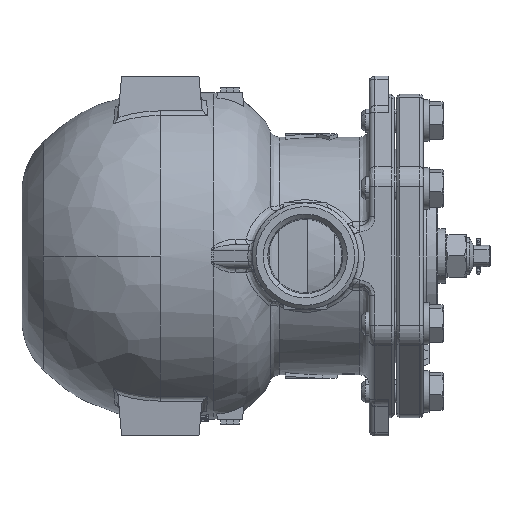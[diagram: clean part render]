
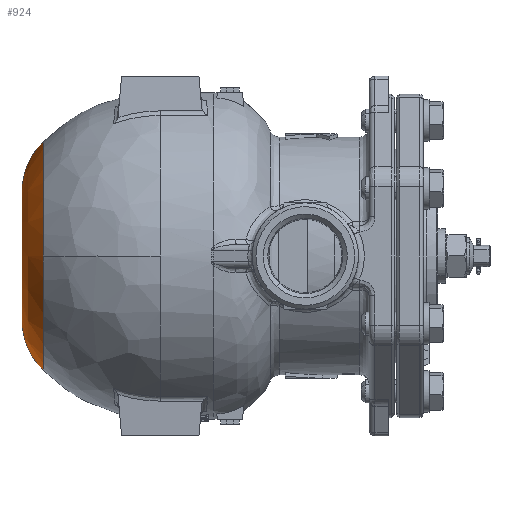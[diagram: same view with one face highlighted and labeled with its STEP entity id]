
A CAD part, left-side view. The second image highlights one B-rep face of the part: STEP entity #924.
In plain terms, the highlighted free-form (B-spline) face has degree [2, 2] with [3, 5] control points.
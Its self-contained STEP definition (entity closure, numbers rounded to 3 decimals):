
#924=ADVANCED_FACE('',(#5559),#5558,.T.);
#5558=( BOUNDED_SURFACE() B_SPLINE_SURFACE( 2,2,((#15043,#15044,#15045,#15046,#15047),(#15048,#15049,#15050,#15051,#15052),(#15053,#15054,#15055,#15056,#15057)), .UNSPECIFIED.,.F.,.F.,.F.) B_SPLINE_SURFACE_WITH_KNOTS((3,3),(3,2,3),(-1.571,-0.758),(0.,1.571,3.142), .UNSPECIFIED. ) GEOMETRIC_REPRESENTATION_ITEM() RATIONAL_B_SPLINE_SURFACE(((1.,0.707,1.,0.707,1.),(0.918,0.649,0.918,0.649,0.918),(1.,0.707,1.,0.707,1.))) REPRESENTATION_ITEM('') SURFACE() );
#5559=FACE_OUTER_BOUND('',#15058,.T.);
#15043=CARTESIAN_POINT('',(71.5,0.,-33.312));
#15044=CARTESIAN_POINT('',(71.5,33.312,-33.312));
#15045=CARTESIAN_POINT('',(71.5,33.312,0.));
#15046=CARTESIAN_POINT('',(71.5,33.312,33.312));
#15047=CARTESIAN_POINT('',(71.5,0.,33.312));
#15048=CARTESIAN_POINT('',(71.5,0.,-48.596));
#15049=CARTESIAN_POINT('',(71.5,48.596,-48.596));
#15050=CARTESIAN_POINT('',(71.5,48.596,0.));
#15051=CARTESIAN_POINT('',(71.5,48.596,48.596));
#15052=CARTESIAN_POINT('',(71.5,0.,48.596));
#15053=CARTESIAN_POINT('',(60.396,0.,-59.101));
#15054=CARTESIAN_POINT('',(60.396,59.101,-59.101));
#15055=CARTESIAN_POINT('',(60.396,59.101,0.));
#15056=CARTESIAN_POINT('',(60.396,59.101,59.101));
#15057=CARTESIAN_POINT('',(60.396,0.,59.101));
#15058=EDGE_LOOP('',(#20611,#20612,#20613,#20614,#20615,#20616,#20617));
#20611=ORIENTED_EDGE('',*,*,#23422,.T.);
#20612=ORIENTED_EDGE('',*,*,#23421,.T.);
#20613=ORIENTED_EDGE('',*,*,#24483,.T.);
#20614=ORIENTED_EDGE('',*,*,#24484,.T.);
#20615=ORIENTED_EDGE('',*,*,#24485,.T.);
#20616=ORIENTED_EDGE('',*,*,#24486,.T.);
#20617=ORIENTED_EDGE('',*,*,#24487,.F.);
#23421=EDGE_CURVE('',#26597,#26598,#26599,.T.);
#23422=EDGE_CURVE('',#26605,#26597,#26606,.T.);
#24483=EDGE_CURVE('',#26598,#33638,#33639,.T.);
#24484=EDGE_CURVE('',#33638,#33645,#33646,.T.);
#24485=EDGE_CURVE('',#33645,#33652,#33653,.T.);
#24486=EDGE_CURVE('',#33652,#33659,#33660,.T.);
#24487=EDGE_CURVE('',#26605,#33659,#33666,.T.);
#26597=VERTEX_POINT('',#42896);
#26598=VERTEX_POINT('',#42897);
#26599=CIRCLE('',#42901,33.312);
#26605=VERTEX_POINT('',#42902);
#26606=(BOUNDED_CURVE() B_SPLINE_CURVE(3,(#42903,#42904,#42905,#42906,#42907,#42908,#42909,#42910,#42911,#42912,#42913,#42914),.UNSPECIFIED.,.F.,.F.) B_SPLINE_CURVE_WITH_KNOTS((4,1,1,1,1,1,1,1,1,4),(0.,7.767,12.673,17.374,23.915,27.798,33.317,39.858,44.763,52.326),.UNSPECIFIED.) CURVE() GEOMETRIC_REPRESENTATION_ITEM() RATIONAL_B_SPLINE_CURVE((1.,1.,1.,1.,1.,1.,1.,1.,1.,1.,1.,1.)) REPRESENTATION_ITEM('') );
#33638=VERTEX_POINT('',#51145);
#33639=(BOUNDED_CURVE() B_SPLINE_CURVE(2,(#51146,#51147,#51148),.UNSPECIFIED.,.F.,.F.) B_SPLINE_CURVE_WITH_KNOTS((3,3),(-1.571,-0.758),.UNSPECIFIED.) CURVE() GEOMETRIC_REPRESENTATION_ITEM() RATIONAL_B_SPLINE_CURVE((1.,0.918,1.)) REPRESENTATION_ITEM('') );
#33645=VERTEX_POINT('',#51149);
#33646=(BOUNDED_CURVE() B_SPLINE_CURVE(3,(#51150,#51151,#51152,#51153,#51154,#51155,#51156,#51157,#51158,#51159,#51160,#51161,#51162,#51163,#51164),.UNSPECIFIED.,.F.,.F.) B_SPLINE_CURVE_WITH_KNOTS((4,1,1,1,1,1,1,1,1,1,1,1,4),(0.,6.165,14.505,21.395,26.11,35.538,41.703,50.406,60.197,69.988,77.603,83.406,90.255),.UNSPECIFIED.) CURVE() GEOMETRIC_REPRESENTATION_ITEM() RATIONAL_B_SPLINE_CURVE((1.,1.,1.,1.,1.,1.,1.,1.,1.,1.,1.,1.,1.,1.,1.)) REPRESENTATION_ITEM('') );
#33652=VERTEX_POINT('',#51165);
#33653=(BOUNDED_CURVE() B_SPLINE_CURVE(3,(#51166,#51167,#51168,#51169),.UNSPECIFIED.,.F.,.F.) B_SPLINE_CURVE_WITH_KNOTS((4,4),(90.255,92.834),.UNSPECIFIED.) CURVE() GEOMETRIC_REPRESENTATION_ITEM() RATIONAL_B_SPLINE_CURVE((1.,1.,1.,1.)) REPRESENTATION_ITEM('') );
#33659=VERTEX_POINT('',#51170);
#33660=CIRCLE('',#51174,59.1);
#33666=(BOUNDED_CURVE() B_SPLINE_CURVE(2,(#51175,#51176,#51177),.UNSPECIFIED.,.F.,.F.) B_SPLINE_CURVE_WITH_KNOTS((3,3),(-1.571,-0.758),.UNSPECIFIED.) CURVE() GEOMETRIC_REPRESENTATION_ITEM() RATIONAL_B_SPLINE_CURVE((1.,0.918,1.)) REPRESENTATION_ITEM('') );
#42896=CARTESIAN_POINT('',(71.5,33.312,0.));
#42897=CARTESIAN_POINT('',(71.5,0.,-33.312));
#42898=CARTESIAN_POINT('',(71.5,0.,0.));
#42899=DIRECTION('',(-1.,0.,0.));
#42900=DIRECTION('',(0.,-1.,0.));
#42901=AXIS2_PLACEMENT_3D('',#42898,#42899,#42900);
#42902=CARTESIAN_POINT('',(71.5,0.,33.312));
#42903=CARTESIAN_POINT('',(71.5,0.,33.312));
#42904=CARTESIAN_POINT('',(71.5,2.589,33.312));
#42905=CARTESIAN_POINT('',(71.5,6.813,32.817));
#42906=CARTESIAN_POINT('',(71.5,12.349,31.063));
#42907=CARTESIAN_POINT('',(71.5,17.205,28.711));
#42908=CARTESIAN_POINT('',(71.5,21.329,25.769));
#42909=CARTESIAN_POINT('',(71.5,25.128,22.039));
#42910=CARTESIAN_POINT('',(71.5,28.37,17.805));
#42911=CARTESIAN_POINT('',(71.5,30.956,12.745));
#42912=CARTESIAN_POINT('',(71.5,32.838,6.677));
#42913=CARTESIAN_POINT('',(71.5,33.312,2.521));
#42914=CARTESIAN_POINT('',(71.5,33.312,0.));
#51145=CARTESIAN_POINT('',(60.397,0.,-59.1));
#51146=CARTESIAN_POINT('',(71.5,0.,-33.312));
#51147=CARTESIAN_POINT('',(71.5,0.,-48.596));
#51148=CARTESIAN_POINT('',(60.397,0.,-59.1));
#51149=CARTESIAN_POINT('',(60.397,59.044,-2.578));
#51150=CARTESIAN_POINT('',(60.397,0.,-59.1));
#51151=CARTESIAN_POINT('',(60.397,2.055,-59.1));
#51152=CARTESIAN_POINT('',(60.397,6.89,-58.847));
#51153=CARTESIAN_POINT('',(60.397,13.93,-57.604));
#51154=CARTESIAN_POINT('',(60.397,20.285,-55.612));
#51155=CARTESIAN_POINT('',(60.397,26.743,-52.867));
#51156=CARTESIAN_POINT('',(60.397,32.631,-49.484));
#51157=CARTESIAN_POINT('',(60.397,39.069,-44.553));
#51158=CARTESIAN_POINT('',(60.397,44.933,-38.762));
#51159=CARTESIAN_POINT('',(60.397,50.546,-31.145));
#51160=CARTESIAN_POINT('',(60.397,54.661,-23.032));
#51161=CARTESIAN_POINT('',(60.397,57.115,-15.679));
#51162=CARTESIAN_POINT('',(60.397,58.516,-9.062));
#51163=CARTESIAN_POINT('',(60.397,58.944,-4.859));
#51164=CARTESIAN_POINT('',(60.397,59.044,-2.578));
#51165=CARTESIAN_POINT('',(60.397,59.1,0.));
#51166=CARTESIAN_POINT('',(60.397,59.044,-2.578));
#51167=CARTESIAN_POINT('',(60.397,59.081,-1.719));
#51168=CARTESIAN_POINT('',(60.397,59.1,-0.86));
#51169=CARTESIAN_POINT('',(60.397,59.1,0.));
#51170=CARTESIAN_POINT('',(60.397,0.,59.1));
#51171=CARTESIAN_POINT('',(60.397,0.,0.));
#51172=DIRECTION('',(1.,0.,0.));
#51173=DIRECTION('',(0.,-1.,0.));
#51174=AXIS2_PLACEMENT_3D('',#51171,#51172,#51173);
#51175=CARTESIAN_POINT('',(71.5,0.,33.312));
#51176=CARTESIAN_POINT('',(71.5,0.,48.596));
#51177=CARTESIAN_POINT('',(60.396,0.,59.101));
